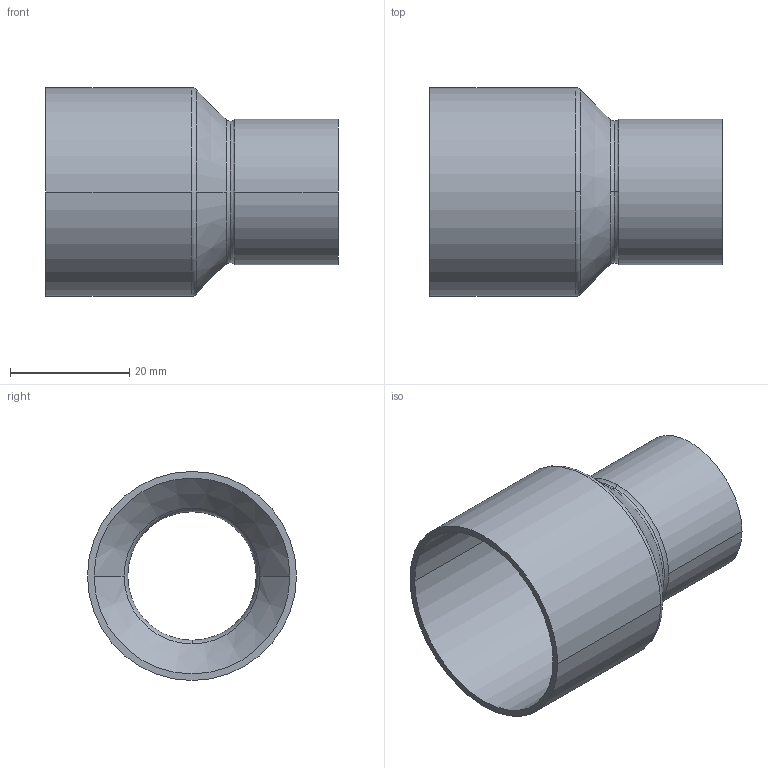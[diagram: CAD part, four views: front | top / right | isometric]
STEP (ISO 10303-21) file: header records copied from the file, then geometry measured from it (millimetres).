
FILE_DESCRIPTION((''),'2;1');
FILE_NAME('G:\Technics\CAD\Bauteile\Serie 15243\152433522.stp','2005-10-21T12:49:42',('boden'),(''),'Autodesk Inventor 8','Autodesk Inventor 8','');
FILE_SCHEMA(('AUTOMOTIVE_DESIGN { 1 0 10303 214 1 1 1 1 }'));
Length unit declared in the file: millimetre
Products named in the file (1): 152433522
Bounding box: 49 x 35 x 35 mm (x, y, z)
Volume: 5163 mm3; surface area: 9585.3 mm2
Topology: 1 solids, 1 shells, 24 faces, 60 edges, 38 vertices
Faces by surface type: cylinder 8, torus 6, bspline 4, cone 4, plane 2
Entity records: 931 total; most frequent: CARTESIAN_POINT 299, DIRECTION 150, ORIENTED_EDGE 120, AXIS2_PLACEMENT_3D 69, EDGE_CURVE 60, CIRCLE 48, VERTEX_POINT 38, EDGE_LOOP 26
